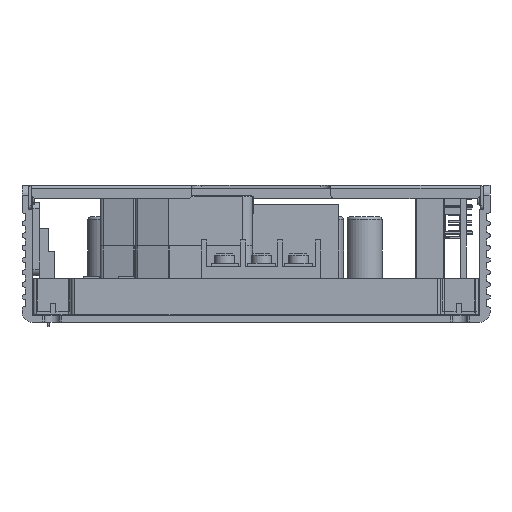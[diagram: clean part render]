
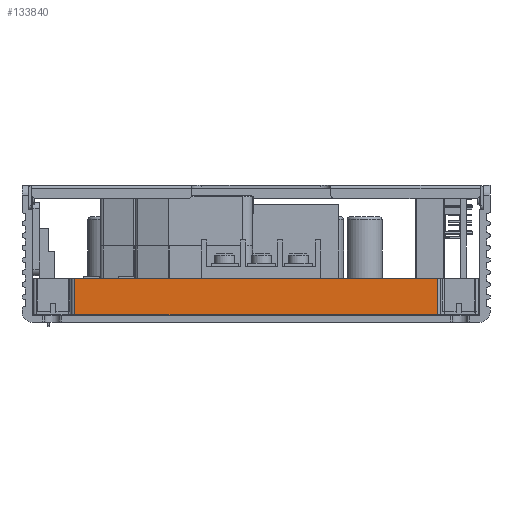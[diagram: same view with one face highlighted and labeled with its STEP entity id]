
A CAD part, front view. The second image highlights one B-rep face of the part: STEP entity #133840.
In plain terms, the highlighted planar face has unit normal (0, -1, 0).
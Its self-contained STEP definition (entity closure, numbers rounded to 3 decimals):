
#133140=CARTESIAN_POINT('',(120.123,-14.39,180.2));
#133150=VERTEX_POINT('',#133140);
#133390=CARTESIAN_POINT('',(120.123,-14.39,191.));
#133400=VERTEX_POINT('',#133390);
#133450=CARTESIAN_POINT('',(120.123,-14.39,191.));
#133460=DIRECTION('',(0.,0.,-1.));
#133470=VECTOR('',#133460,1.);
#133480=LINE('',#133450,#133470);
#133490=EDGE_CURVE('',#133400,#133150,#133480,.T.);
#133540=CARTESIAN_POINT('',(91.823,-14.39,180.));
#133550=DIRECTION('',(0.,-1.,0.));
#133560=DIRECTION('',(0.,0.,-1.));
#133570=AXIS2_PLACEMENT_3D('',#133540,#133550,#133560);
#133580=PLANE('',#133570);
#133590=CARTESIAN_POINT('',(11.623,-14.39,191.));
#133600=DIRECTION('',(1.,0.,0.));
#133610=VECTOR('',#133600,1.);
#133620=LINE('',#133590,#133610);
#133630=CARTESIAN_POINT('',(11.623,-14.39,191.));
#133640=VERTEX_POINT('',#133630);
#133650=EDGE_CURVE('',#133640,#133400,#133620,.T.);
#133660=ORIENTED_EDGE('',*,*,#133650,.F.);
#133670=ORIENTED_EDGE('',*,*,#133490,.F.);
#133680=CARTESIAN_POINT('',(120.123,-14.39,180.2));
#133690=DIRECTION('',(-1.,0.,0.));
#133700=VECTOR('',#133690,1.);
#133710=LINE('',#133680,#133700);
#133720=CARTESIAN_POINT('',(11.623,-14.39,180.2));
#133730=VERTEX_POINT('',#133720);
#133740=EDGE_CURVE('',#133150,#133730,#133710,.T.);
#133750=ORIENTED_EDGE('',*,*,#133740,.F.);
#133760=CARTESIAN_POINT('',(11.623,-14.39,180.2));
#133770=DIRECTION('',(0.,0.,1.));
#133780=VECTOR('',#133770,1.);
#133790=LINE('',#133760,#133780);
#133800=EDGE_CURVE('',#133730,#133640,#133790,.T.);
#133810=ORIENTED_EDGE('',*,*,#133800,.F.);
#133820=EDGE_LOOP('',(#133810,#133750,#133670,#133660));
#133830=FACE_OUTER_BOUND('',#133820,.T.);
#133840=ADVANCED_FACE('',(#133830),#133580,.T.);
